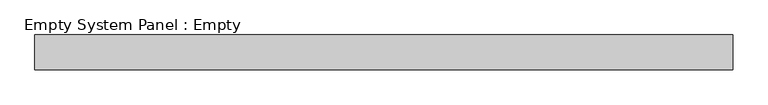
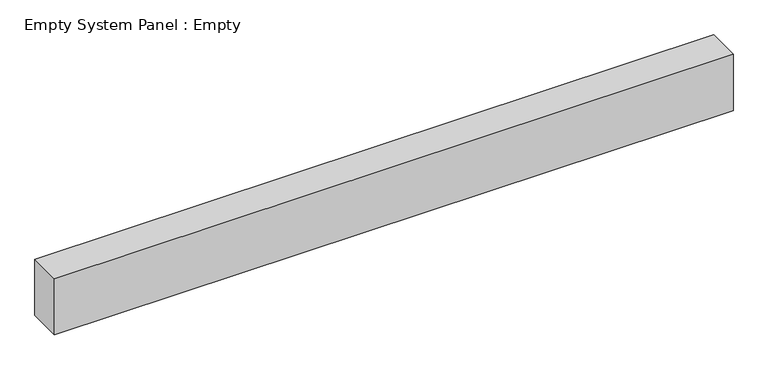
"""IFC4 building model written with IfcOpenShell, lengths in millimetres: plate geometry, Empty System Panel : Empty."""

from ifc_helpers import new_model, si_unit, origin, origin_with_axes, place, context, project, spatial, polyline, outline, extrude, source, transform, mapped, element, save


def empty_system_panel_empty_0e8c6ffc(model_context):
    return source(origin(), model_context, "Body", "SweptSolid", [
        extrude(outline(polyline([(1000.0, -50.0), (-1000.0, -50.0), (-1000.0, 50.0), (1000.0, 50.0), (1000.0, -50.0)])), origin_with_axes(), (0.0, 0.0, 1.0), 175.1507576),
    ])


if __name__ == "__main__":
    model = new_model("IFC4")
    model_context = context("Model", 3, world=origin())
    ifc_project = project(units=[si_unit("LENGTHUNIT", "METRE", prefix="MILLI")], contexts=[model_context])
    site = spatial("IfcSite", under=ifc_project)
    building = spatial("IfcBuilding", under=site)
    placement = place(None, origin())
    empty_system_panel_empty_shape = empty_system_panel_empty_0e8c6ffc(model_context)
    element("IfcPlate", 1, ObjectType="Empty System Panel : Empty", at=placement, inside=building, context=model_context, shape_type="MappedRepresentation", body=[
        mapped(empty_system_panel_empty_shape, transform((0.0, 0.0, 0.0), x_axis=(1.0, 0.0, 0.0), y_axis=(0.0, 1.0, 0.0), z_axis=(0.0, 0.0, 1.0))),
    ])
    save(model, "model.ifc")
